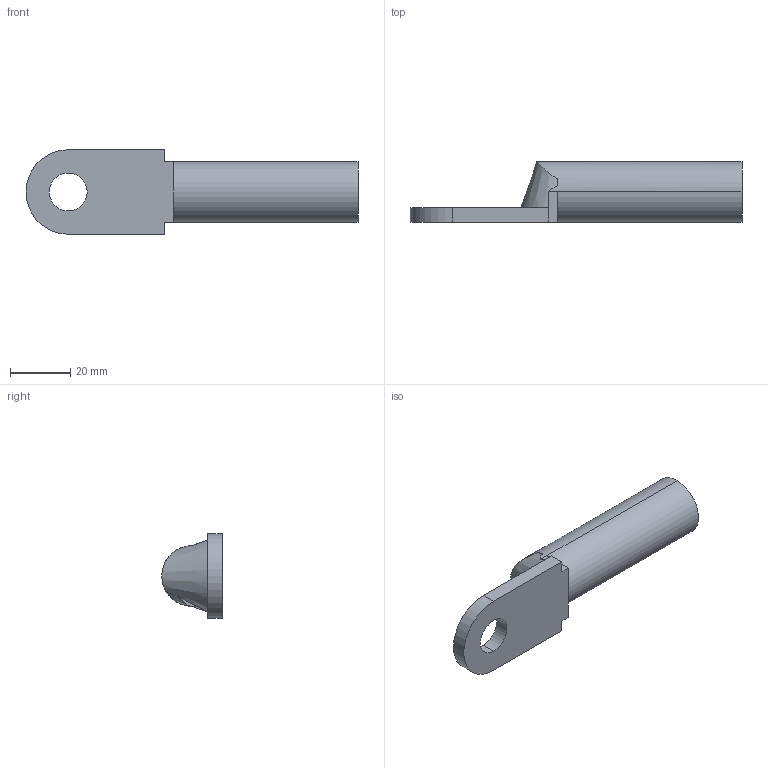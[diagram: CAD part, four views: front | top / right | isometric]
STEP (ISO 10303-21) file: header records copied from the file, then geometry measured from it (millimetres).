
FILE_DESCRIPTION (( 'STEP AP214' ), '1' );
FILE_NAME ('DL-95-12.STEP', '2020-04-24T12:26:30', ( '' ), ( '' ), 'SwSTEP 2.0', 'SolidWorks 2018', '' );
FILE_SCHEMA (( 'AUTOMOTIVE_DESIGN' ));
Length unit declared in the file: millimetre
Products named in the file (1): DL-95-12
Bounding box: 110 x 20 x 28 mm (x, y, z)
Volume: 18084.6 mm3; surface area: 10160.9 mm2
Topology: 1 solids, 1 shells, 24 faces, 58 edges, 37 vertices
Faces by surface type: plane 16, cylinder 7, cone 1
Entity records: 808 total; most frequent: CARTESIAN_POINT 205, DIRECTION 118, ORIENTED_EDGE 116, EDGE_CURVE 58, AXIS2_PLACEMENT_3D 42, VERTEX_POINT 37, VECTOR 34, LINE 34
